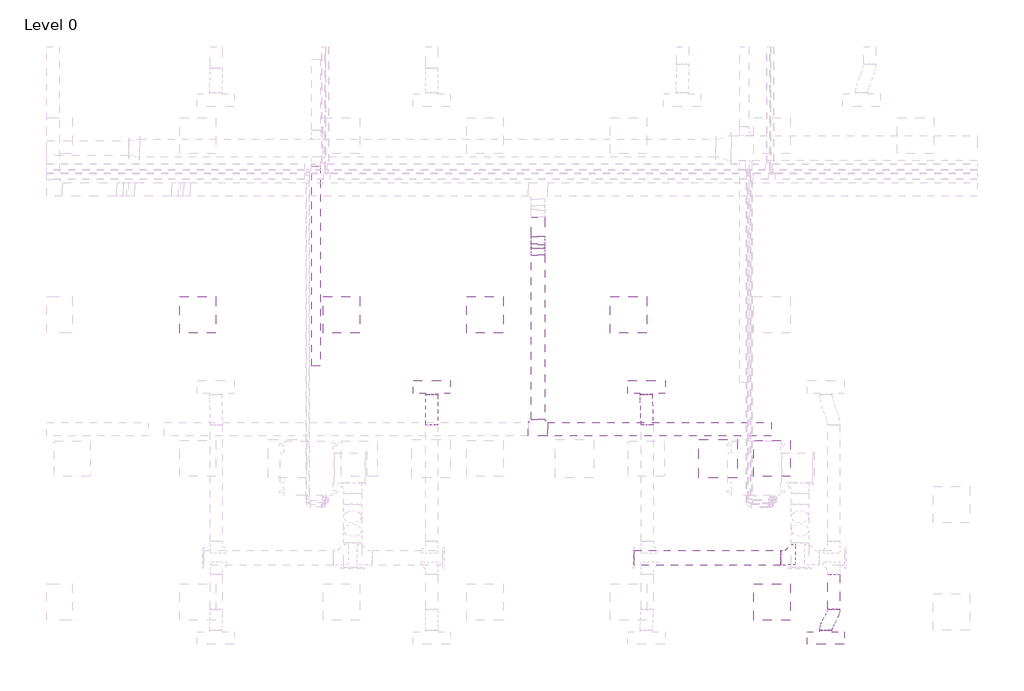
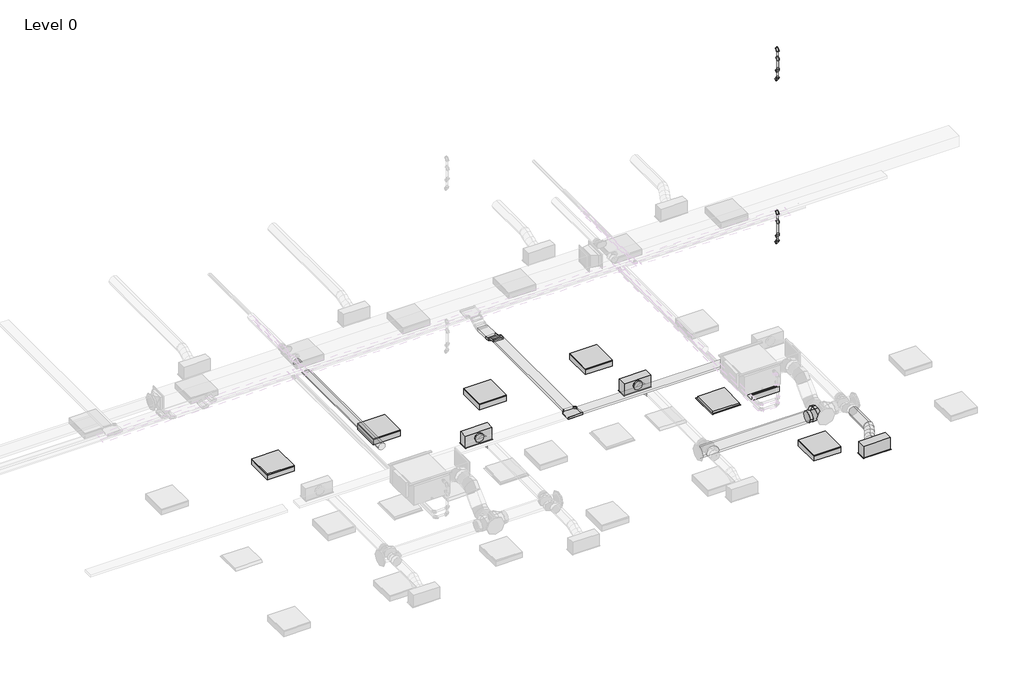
# One storey, part 10 of 34: 8 pipe fittings, 6 duct segments, 6 light fixtures, 4 air terminals, 4 cable carrier segments, 4 pipe segments, 3 cable carrier fittings, 1 duct fitting.
"""IFC4 building model written with IfcOpenShell, lengths in millimetres."""

from ifc_helpers import new_model, si_unit, point, frame, frame_2d, origin, place, context, project, spatial, polyline, circle_curve, ellipse_curve, trimmed, segment, composite_curve, outline, extrude, transform, mapped, element, save
from ifc_brep_helpers import plane_surface, cylinder_surface, advanced_brep
from components import return_grille_rectangular_hosted_standard_7b12617c, supply_diffuser_with_plenum_linear_slot_hosted_2b730595, cable_tray_horizontal_tee_standard_d76b5e15, cable_tray_vertical_inside_bend_standard_9a66f55b, cable_tray_vertical_outside_bend_standard_4df2047e, dw144_round_shoe_branch_slip_joint1_standard_2_67b64720, troffer_light_2x2_parabolic_2_x2_2_lamp_120v_6a063ff3, elbow_threaded_gmi_standard_b4aa7741

model = new_model("IFC4")

# Units and contexts
model_context = context("Model", 3, world=origin())
ifc_project = project(units=[si_unit("LENGTHUNIT", "METRE", prefix="MILLI")], contexts=[model_context])

# Site, building, storey
site = spatial("IfcSite", under=ifc_project)
building = spatial("IfcBuilding", under=site)
storey = spatial("IfcBuildingStorey", under=building, Name="Level 0", Elevation=0.0)

# Air terminals
placement = place(None, origin())
return_grille_rectangular_hosted_standard_shape = return_grille_rectangular_hosted_standard_7b12617c(model_context)
element("IfcAirTerminal", 1, ObjectType="Return Grille - Rectangular - Hosted : Standard", at=placement, inside=storey, context=model_context, shape_type="MappedRepresentation", body=[
    mapped(return_grille_rectangular_hosted_standard_shape, transform((24762.2000027, 3963.2000004, 2800.0), x_axis=(1.0, 0.0, 0.0), y_axis=(0.0, -1.0, 0.0), z_axis=(0.0, 0.0, -1.0))),
])
supply_diffuser_with_plenum_linear_slot_hosted_shape = supply_diffuser_with_plenum_linear_slot_hosted_2b730595(model_context)
element("IfcAirTerminal", 2, ObjectType="Supply Diffuser with Plenum - Linear Slot - Hosted : 24\" x 8\"-200 In Inlet  4-Slot", at=placement, inside=storey, context=model_context, shape_type="MappedRepresentation", body=[
    mapped(supply_diffuser_with_plenum_linear_slot_hosted_shape, transform((26562.2000027, 963.2000004, 2800.0), x_axis=(1.0, 0.0, 0.0), y_axis=(0.0, -1.0, 0.0), z_axis=(0.0, 0.0, -1.0))),
])
element("IfcAirTerminal", 3, ObjectType="Supply Diffuser with Plenum - Linear Slot - Hosted : 24\" x 8\"-200 In Inlet  4-Slot", at=placement, inside=storey, context=model_context, shape_type="MappedRepresentation", body=[
    mapped(supply_diffuser_with_plenum_linear_slot_hosted_shape, transform((19973.9000022, 5163.2000004, 2800.0), x_axis=(-1.0, 0.0, 0.0), y_axis=(0.0, 1.0, 0.0), z_axis=(0.0, 0.0, -1.0))),
])
element("IfcAirTerminal", 4, ObjectType="Supply Diffuser with Plenum - Linear Slot - Hosted : 24\" x 8\"-200 In Inlet  4-Slot", at=placement, inside=storey, context=model_context, shape_type="MappedRepresentation", body=[
    mapped(supply_diffuser_with_plenum_linear_slot_hosted_shape, transform((23562.2000027, 5163.2000004, 2800.0), x_axis=(-1.0, 0.0, 0.0), y_axis=(0.0, 1.0, 0.0), z_axis=(0.0, 0.0, -1.0))),
])

# Cable carrier fittings
cable_tray_horizontal_tee_standard_shape = cable_tray_horizontal_tee_standard_d76b5e15(model_context)
element("IfcCableCarrierFitting", 5, ObjectType="Cable Tray Horizontal Tee : Standard", at=placement, inside=storey, context=model_context, shape_type="MappedRepresentation", body=[
    mapped(cable_tray_horizontal_tee_standard_shape, transform((21747.5028601, 4459.9103775, 3275.0), x_axis=(-1.0, 0.0, 0.0), y_axis=(0.0, -1.0, 0.0), z_axis=(0.0, 0.0, 1.0))),
])
cable_tray_vertical_inside_bend_standard_shape = cable_tray_vertical_inside_bend_standard_9a66f55b(model_context)
element("IfcCableCarrierFitting", 6, ObjectType="Cable Tray Vertical Inside Bend : Standard", at=placement, inside=storey, context=model_context, shape_type="MappedRepresentation", body=[
    mapped(cable_tray_vertical_inside_bend_standard_shape, transform((21747.5028601, 7610.4627278, 3175.0), x_axis=(0.0, 0.8660254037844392, -0.49999999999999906), y_axis=(0.0, 0.49999999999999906, 0.8660254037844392), z_axis=(1.0, 0.0, 0.0))),
])
cable_tray_vertical_outside_bend_standard_shape = cable_tray_vertical_outside_bend_standard_4df2047e(model_context)
element("IfcCableCarrierFitting", 7, ObjectType="Cable Tray Vertical Outside Bend : Standard", at=placement, inside=storey, context=model_context, shape_type="MappedRepresentation", body=[
    mapped(cable_tray_vertical_outside_bend_standard_shape, transform((21747.5028601, 7437.257647, 3275.0), x_axis=(0.0, -0.8660254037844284, 0.5000000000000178), y_axis=(0.0, -0.5000000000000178, -0.8660254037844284), z_axis=(1.0, 0.0, 0.0))),
])

# Cable carrier segments
element("IfcCableCarrierSegment", 8, ObjectType="Perforated Cable Tray", at=placement, inside=storey, context=model_context, shape_type="SweptSolid", body=[
    extrude(outline(polyline([(21910.0028601, 4347.4103775), (21910.0028601, 4572.4103775), (25647.5028601, 4572.4103775), (25647.5028601, 4347.4103775), (21910.0028601, 4347.4103775)])), frame((0.0, 0.0, 3250.0), z_axis=(0.0, 0.0, 1.0), x_axis=(1.0, 0.0, 0.0)), (0.0, 0.0, 1.0), 50.0),
])
element("IfcCableCarrierSegment", 9, ObjectType="Perforated Cable Tray", at=placement, inside=storey, context=model_context, shape_type="SweptSolid", body=[
    extrude(outline(polyline([(21635.0028601, 7370.2703489), (21860.0028601, 7370.2703489), (21860.0028601, 4622.4103775), (21635.0028601, 4622.4103775), (21635.0028601, 7370.2703489)])), frame((0.0, 0.0, 3250.0), z_axis=(0.0, 0.0, 1.0), x_axis=(1.0, 0.0, 0.0)), (0.0, 0.0, 1.0), 50.0),
])
element("IfcCableCarrierSegment", 10, ObjectType="Perforated Cable Tray", at=placement, inside=storey, context=model_context, shape_type="SweptSolid", body=[
    extrude(outline(polyline([(21635.0028601, 8002.7307005), (21860.0028601, 8002.7307005), (21860.0028601, 7677.4500259), (21635.0028601, 7677.4500259), (21635.0028601, 8002.7307005)])), frame((0.0, 0.0, 3150.0), z_axis=(0.0, 0.0, 1.0), x_axis=(1.0, 0.0, 0.0)), (0.0, 0.0, 1.0), 50.0),
])
element("IfcCableCarrierSegment", 11, ObjectType="Perforated Cable Tray", at=placement, inside=storey, context=model_context, shape_type="SweptSolid", body=[
    extrude(outline(polyline([(0.0, -225.0), (0.0, 0.0), (66.0254038, 0.0), (66.0254038, -225.0), (0.0, -225.0)])), frame((21860.0028601, 7539.9500259, 3186.843014), z_axis=(0.0, 0.5000000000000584, 0.866025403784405), x_axis=(0.0, -0.866025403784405, 0.5000000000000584)), (0.0, 0.0, 1.0), 50.0),
])

# Duct fitting
dw144_round_shoe_branch_slip_joint1_standard_2_shape = dw144_round_shoe_branch_slip_joint1_standard_2_67b64720(model_context)
element("IfcDuctFitting", 12, ObjectType="DW144 Round Shoe Branch - Slip Joint1 : Standard 2", at=placement, inside=storey, context=model_context, shape_type="MappedRepresentation", body=[
    mapped(dw144_round_shoe_branch_slip_joint1_standard_2_shape, transform((25981.4561025, 2306.5018192, 3072.2088531), x_axis=(-1.0, 0.0, 0.0), y_axis=(0.0, -1.0, 0.0), z_axis=(0.0, 0.0, 1.0))),
])

# Duct segments
element("IfcDuctSegment", 13, ObjectType="DW144 Segmented Bend / Shoe Branch", at=placement, inside=storey, context=model_context, shape_type="SweptSolid", body=[
    extrude(outline(composite_curve([segment(trimmed(circle_curve(frame_2d((2306.5018192, 3072.2088531)), 125.0), [point((2431.5018192, 3072.2088531))], [point((2306.5018192, 2947.2088531))], False, "CARTESIAN"), True, "CONTINUOUS"), segment(trimmed(circle_curve(frame_2d((2306.5018192, 3072.2088531)), 125.0), [point((2306.5018192, 2947.2088531))], [point((2181.5018192, 3072.2088531))], False, "CARTESIAN"), True, "CONTINUOUS"), segment(trimmed(circle_curve(frame_2d((2306.5018192, 3072.2088531)), 125.0), [point((2181.5018192, 3072.2088531))], [point((2306.5018192, 3197.2088531))], False, "CARTESIAN"), True, "CONTINUOUS"), segment(trimmed(circle_curve(frame_2d((2306.5018192, 3072.2088531)), 125.0), [point((2306.5018192, 3197.2088531))], [point((2431.5018192, 3072.2088531))], False, "CARTESIAN"), True, "CONTINUOUS")], self_intersect=False)), frame((23361.4561025, 0.0, 0.0), z_axis=(1.0, 0.0, 0.0), x_axis=(0.0, 1.0, 0.0)), (0.0, 0.0, 1.0), 2445.0),
])
element("IfcDuctSegment", 14, ObjectType="DW144 Segmented Bend / Shoe Branch", at=placement, inside=storey, context=model_context, shape_type="SweptSolid", body=[
    extrude(outline(composite_curve([segment(trimmed(circle_curve(frame_2d((3072.2088531, 26693.9000022)), 100.0), [point((3072.2088531, 26593.9000022))], [point((2972.2088531, 26693.9000022))], False, "CARTESIAN"), True, "CONTINUOUS"), segment(trimmed(circle_curve(frame_2d((3072.2088531, 26693.9000022)), 100.0), [point((2972.2088531, 26693.9000022))], [point((3072.2088531, 26793.9000022))], False, "CARTESIAN"), True, "CONTINUOUS"), segment(trimmed(circle_curve(frame_2d((3072.2088531, 26693.9000022)), 100.0), [point((3072.2088531, 26793.9000022))], [point((3172.2088531, 26693.9000022))], False, "CARTESIAN"), True, "CONTINUOUS"), segment(trimmed(circle_curve(frame_2d((3072.2088531, 26693.9000022)), 100.0), [point((3172.2088531, 26693.9000022))], [point((3072.2088531, 26593.9000022))], False, "CARTESIAN"), True, "CONTINUOUS")], self_intersect=False)), frame((0.0, 1441.5018192, 0.0), z_axis=(0.0, 1.0, 0.0), x_axis=(0.0, 0.0, 1.0)), (0.0, 0.0, 1.0), 590.0),
])
element("IfcDuctSegment", 15, ObjectType="DW144 Segmented Bend / Shoe Branch", at=placement, inside=storey, context=model_context, shape_type="SweptSolid", body=[
    extrude(outline(composite_curve([segment(trimmed(circle_curve(frame_2d((3135.0, 18039.0080407)), 75.0), [point((3135.0, 17964.0080407))], [point((3060.0, 18039.0080407))], False, "CARTESIAN"), True, "CONTINUOUS"), segment(trimmed(circle_curve(frame_2d((3135.0, 18039.0080407)), 75.0), [point((3060.0, 18039.0080407))], [point((3135.0, 18114.0080407))], False, "CARTESIAN"), True, "CONTINUOUS"), segment(trimmed(circle_curve(frame_2d((3135.0, 18039.0080407)), 75.0), [point((3135.0, 18114.0080407))], [point((3210.0, 18039.0080407))], False, "CARTESIAN"), True, "CONTINUOUS"), segment(trimmed(circle_curve(frame_2d((3135.0, 18039.0080407)), 75.0), [point((3210.0, 18039.0080407))], [point((3135.0, 17964.0080407))], False, "CARTESIAN"), True, "CONTINUOUS")], self_intersect=False)), frame((0.0, 5510.2561435, 0.0), z_axis=(0.0, 1.0, 0.0), x_axis=(0.0, 0.0, 1.0)), (0.0, 0.0, 1.0), 3349.1601689),
])
element("IfcDuctSegment", 16, ObjectType="Flex - Round", at=placement, inside=storey, context=model_context, shape_type="AdvancedBrep", body=[
    advanced_brep(
    [(19873.9000022, 4531.5018192, 3072.2088531), (19973.9000022, 4531.5018192, 2972.2088531), (20073.9000022, 4531.5018192, 3072.2088531), (19973.9000022, 4531.5018192, 3172.2088531), (19873.9000022, 4545.7969038, 3072.2088531), (19973.9000022, 4537.7159486, 2972.2088531), (20073.9000022, 4545.7969038, 3072.2088531), (19973.9000022, 4553.877859, 3172.2088531), (19873.9000022, 5036.2000004, 2954.4), (19973.9000022, 5036.2000004, 3054.4), (20073.9000022, 5036.2000004, 2954.4), (19973.9000022, 5036.2000004, 2854.4), (19873.9000022, 4658.9483053, 3053.8012198), (19973.9000022, 4635.3622903, 2956.3236053), (20073.9000022, 4658.9483053, 3053.8012198), (19973.9000022, 4682.5343203, 3151.2788343), (19873.9000022, 4783.8509098, 3013.3044266), (19973.9000022, 4753.0088194, 2918.1794274), (20073.9000022, 4783.8509098, 3013.3044266), (19973.9000022, 4814.6930003, 3108.4294257), (19873.9000022, 4908.7535143, 2972.8076333), (19973.9000022, 4885.1674994, 2875.3300188), (20073.9000022, 4908.7535143, 2972.8076333), (19973.9000022, 4932.3395293, 3070.2852478), (19873.9000022, 5021.9049158, 2954.4), (19973.9000022, 5013.8239606, 2854.4), (20073.9000022, 5021.9049158, 2954.4), (19973.9000022, 5029.985871, 3054.4)],
    [
        (0, 1, circle_curve(frame((19973.9000022, 4531.5018192, 3072.2088531), z_axis=(0.0, -1.0, 0.0), x_axis=(-1.0, 0.0, 0.0)), 100.0)),
        (1, 2, circle_curve(frame((19973.9000022, 4531.5018192, 3072.2088531), z_axis=(0.0, -1.0, 0.0), x_axis=(-1.0, 0.0, 0.0)), 100.0)),
        (2, 3, circle_curve(frame((19973.9000022, 4531.5018192, 3072.2088531), z_axis=(0.0, -1.0, 0.0), x_axis=(-1.0, 0.0, 0.0)), 100.0)),
        (3, 0, circle_curve(frame((19973.9000022, 4531.5018192, 3072.2088531), z_axis=(0.0, -1.0, 0.0), x_axis=(-1.0, 0.0, 0.0)), 100.0)),
        (0, 4),
        (4, 5, ellipse_curve(frame((19973.9000022, 4545.7969038, 3072.2088531), z_axis=(0.0, -0.9967508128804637, 0.08054698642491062), x_axis=(0.0, -0.08054698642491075, -0.9967508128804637)), 100.3259779, 100.0)),
        (5, 1),
        (5, 6, ellipse_curve(frame((19973.9000022, 4545.7969038, 3072.2088531), z_axis=(0.0, -0.9967508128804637, 0.08054698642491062), x_axis=(0.0, -0.08054698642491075, -0.9967508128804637)), 100.3259779, 100.0)),
        (6, 2),
        (6, 7, ellipse_curve(frame((19973.9000022, 4545.7969038, 3072.2088531), z_axis=(0.0, -0.9967508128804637, 0.08054698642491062), x_axis=(0.0, -0.08054698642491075, -0.9967508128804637)), 100.3259779, 100.0)),
        (7, 3),
        (7, 4, ellipse_curve(frame((19973.9000022, 4545.7969038, 3072.2088531), z_axis=(0.0, -0.9967508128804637, 0.08054698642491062), x_axis=(0.0, -0.08054698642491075, -0.9967508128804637)), 100.3259779, 100.0)),
        (8, 9, circle_curve(frame((19973.9000022, 5036.2000004, 2954.4), z_axis=(0.0, 1.0, 0.0), x_axis=(-1.0, 0.0, 0.0)), 100.0)),
        (9, 10, circle_curve(frame((19973.9000022, 5036.2000004, 2954.4), z_axis=(0.0, 1.0, 0.0), x_axis=(-1.0, 0.0, 0.0)), 100.0)),
        (10, 11, circle_curve(frame((19973.9000022, 5036.2000004, 2954.4), z_axis=(0.0, 1.0, 0.0), x_axis=(-1.0, 0.0, 0.0)), 100.0)),
        (11, 8, circle_curve(frame((19973.9000022, 5036.2000004, 2954.4), z_axis=(0.0, 1.0, 0.0), x_axis=(-1.0, 0.0, 0.0)), 100.0)),
        (4, 12),
        (12, 13, ellipse_curve(frame((19973.9000022, 4658.9483053, 3053.8012198), z_axis=(0.0, -0.9719525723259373, 0.23517694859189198), x_axis=(0.0, -0.2351769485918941, -0.9719525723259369)), 100.2905052, 100.0)),
        (13, 5),
        (13, 14, ellipse_curve(frame((19973.9000022, 4658.9483053, 3053.8012198), z_axis=(0.0, -0.9719525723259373, 0.23517694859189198), x_axis=(0.0, -0.2351769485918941, -0.9719525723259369)), 100.2905052, 100.0)),
        (14, 6),
        (14, 15, ellipse_curve(frame((19973.9000022, 4658.9483053, 3053.8012198), z_axis=(0.0, -0.9719525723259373, 0.23517694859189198), x_axis=(0.0, -0.2351769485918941, -0.9719525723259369)), 100.2905052, 100.0)),
        (15, 7),
        (15, 12, ellipse_curve(frame((19973.9000022, 4658.9483053, 3053.8012198), z_axis=(0.0, -0.9719525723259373, 0.23517694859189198), x_axis=(0.0, -0.2351769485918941, -0.9719525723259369)), 100.2905052, 100.0)),
        (12, 16),
        (16, 17, circle_curve(frame((19973.9000022, 4783.8509098, 3013.3044266), z_axis=(0.0, -0.9512499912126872, 0.30842090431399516), x_axis=(-1.0, 0.0, 0.0)), 100.0)),
        (17, 13),
        (17, 18, circle_curve(frame((19973.9000022, 4783.8509098, 3013.3044266), z_axis=(0.0, -0.9512499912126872, 0.30842090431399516), x_axis=(-1.0, 0.0, 0.0)), 100.0)),
        (18, 14),
        (18, 19, circle_curve(frame((19973.9000022, 4783.8509098, 3013.3044266), z_axis=(0.0, -0.9512499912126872, 0.30842090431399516), x_axis=(-1.0, 0.0, 0.0)), 100.0)),
        (19, 15),
        (19, 16, circle_curve(frame((19973.9000022, 4783.8509098, 3013.3044266), z_axis=(0.0, -0.9512499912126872, 0.30842090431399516), x_axis=(-1.0, 0.0, 0.0)), 100.0)),
        (16, 20),
        (20, 21, ellipse_curve(frame((19973.9000022, 4908.7535143, 2972.8076333), z_axis=(0.0, -0.9719525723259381, 0.2351769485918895), x_axis=(0.0, 0.23517694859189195, 0.9719525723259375)), 100.2905052, 100.0)),
        (21, 17),
        (21, 22, ellipse_curve(frame((19973.9000022, 4908.7535143, 2972.8076333), z_axis=(0.0, -0.9719525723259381, 0.2351769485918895), x_axis=(0.0, 0.23517694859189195, 0.9719525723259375)), 100.2905052, 100.0)),
        (22, 18),
        (22, 23, ellipse_curve(frame((19973.9000022, 4908.7535143, 2972.8076333), z_axis=(0.0, -0.9719525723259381, 0.2351769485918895), x_axis=(0.0, 0.23517694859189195, 0.9719525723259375)), 100.2905052, 100.0)),
        (23, 19),
        (23, 20, ellipse_curve(frame((19973.9000022, 4908.7535143, 2972.8076333), z_axis=(0.0, -0.9719525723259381, 0.2351769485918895), x_axis=(0.0, 0.23517694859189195, 0.9719525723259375)), 100.2905052, 100.0)),
        (20, 24),
        (24, 25, ellipse_curve(frame((19973.9000022, 5021.9049158, 2954.4), z_axis=(0.0, -0.9967508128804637, 0.0805469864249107), x_axis=(0.0, 0.08054698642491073, 0.9967508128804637)), 100.3259779, 100.0)),
        (25, 21),
        (25, 26, ellipse_curve(frame((19973.9000022, 5021.9049158, 2954.4), z_axis=(0.0, -0.9967508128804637, 0.0805469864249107), x_axis=(0.0, 0.08054698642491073, 0.9967508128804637)), 100.3259779, 100.0)),
        (26, 22),
        (26, 27, ellipse_curve(frame((19973.9000022, 5021.9049158, 2954.4), z_axis=(0.0, -0.9967508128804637, 0.0805469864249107), x_axis=(0.0, 0.08054698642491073, 0.9967508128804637)), 100.3259779, 100.0)),
        (27, 23),
        (27, 24, ellipse_curve(frame((19973.9000022, 5021.9049158, 2954.4), z_axis=(0.0, -0.9967508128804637, 0.0805469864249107), x_axis=(0.0, 0.08054698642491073, 0.9967508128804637)), 100.3259779, 100.0)),
        (24, 8),
        (11, 25),
        (10, 26),
        (9, 27),
    ],
    [
        plane_surface(frame((19873.9000022, 4531.5018192, 3072.2088531), z_axis=(0.0, -1.0, 0.0), x_axis=(0.0, 0.0, 1.0))),
        cylinder_surface(frame((19973.9000022, 4531.5018192, 3072.2088531), z_axis=(0.0, -1.0, 0.0), x_axis=(-1.0, 0.0, 0.0)), 100.0),
        plane_surface(frame((19873.9000022, 5036.2000004, 2954.4), z_axis=(0.0, 1.0, 0.0), x_axis=(0.0, 0.0, 1.0))),
        cylinder_surface(frame((19973.9000022, 4545.7969038, 3072.2088531), z_axis=(0.0, -0.9870243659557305, 0.1605705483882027), x_axis=(-1.0, 0.0, 0.0)), 100.0),
        cylinder_surface(frame((19973.9000022, 4658.9483053, 3053.8012198), z_axis=(0.0, -0.9512499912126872, 0.30842090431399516), x_axis=(-1.0, 0.0, 0.0)), 100.0),
        cylinder_surface(frame((19973.9000022, 4783.8509098, 3013.3044266), z_axis=(0.0, -0.9512499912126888, 0.3084209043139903), x_axis=(-1.0, 0.0, 0.0)), 100.0),
        cylinder_surface(frame((19973.9000022, 4908.7535143, 2972.8076333), z_axis=(0.0, -0.9870243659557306, 0.16057054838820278), x_axis=(-1.0, 0.0, 0.0)), 100.0),
        cylinder_surface(frame((19973.9000022, 5021.9049158, 2954.4), z_axis=(0.0, -1.0, 0.0), x_axis=(-1.0, 0.0, 0.0)), 100.0),
    ],
    [
        (0, [[1, 2, 3, 4]]),
        (1, [[-1, 5, 6, 7]]),
        (1, [[-2, -7, 8, 9]]),
        (1, [[-3, -9, 10, 11]]),
        (1, [[-4, -11, 12, -5]]),
        (2, [[13, 14, 15, 16]]),
        (3, [[-6, 17, 18, 19]]),
        (3, [[-8, -19, 20, 21]]),
        (3, [[-10, -21, 22, 23]]),
        (3, [[-12, -23, 24, -17]]),
        (4, [[-18, 25, 26, 27]]),
        (4, [[-20, -27, 28, 29]]),
        (4, [[-22, -29, 30, 31]]),
        (4, [[-24, -31, 32, -25]]),
        (5, [[-26, 33, 34, 35]]),
        (5, [[-28, -35, 36, 37]]),
        (5, [[-30, -37, 38, 39]]),
        (5, [[-32, -39, 40, -33]]),
        (6, [[-34, 41, 42, 43]]),
        (6, [[-36, -43, 44, 45]]),
        (6, [[-38, -45, 46, 47]]),
        (6, [[-40, -47, 48, -41]]),
        (7, [[-42, 49, -16, 50]]),
        (7, [[-44, -50, -15, 51]]),
        (7, [[-46, -51, -14, 52]]),
        (7, [[-48, -52, -13, -49]]),
    ],
),
])
element("IfcDuctSegment", 17, ObjectType="Flex - Round", at=placement, inside=storey, context=model_context, shape_type="AdvancedBrep", body=[
    advanced_brep(
    [(23473.9000022, 4531.5018192, 3072.2088531), (23573.9000022, 4531.5018192, 2972.2088531), (23673.9000022, 4531.5018192, 3072.2088531), (23573.9000022, 4531.5018192, 3172.2088531), (23473.9000022, 4544.9917141, 3072.2088531), (23573.9000022, 4537.7147353, 2972.2088531), (23673.9000022, 4546.5964935, 3072.2088531), (23573.9000022, 4553.8734723, 3172.2088531), (23462.2000027, 5036.2000004, 2954.4), (23562.2000027, 5036.2000004, 3054.4), (23662.2000027, 5036.2000004, 2954.4), (23562.2000027, 5036.2000004, 2854.4), (23472.0967445, 4656.6189403, 3054.0516107), (23572.3222682, 4635.3813467, 2956.322439), (23672.0470101, 4661.3024295, 3053.5508289), (23571.8214864, 4682.5400231, 3151.2800006), (23468.0980601, 4780.789038, 3013.7883253), (23568.5339011, 4753.0205151, 2918.1768669), (23668.0019448, 4786.9127816, 3012.8205279), (23567.5661038, 4814.6813046, 3108.4319862), (23464.0529948, 4906.3993902, 2973.0580242), (23564.2785185, 4885.1617966, 2875.3288525), (23664.0032604, 4911.0828794, 2972.5572424), (23563.7777367, 4932.320473, 3070.2864141), (23462.2000027, 5021.1053262, 2954.4), (23562.2000027, 5013.8283474, 2854.4), (23662.2000027, 5022.7101055, 2954.4), (23562.2000027, 5029.9870843, 3054.4)],
    [
        (0, 1, circle_curve(frame((23573.9000022, 4531.5018192, 3072.2088531), z_axis=(0.0, -1.0, 0.0), x_axis=(-1.0, 0.0, 0.0)), 100.0)),
        (1, 2, circle_curve(frame((23573.9000022, 4531.5018192, 3072.2088531), z_axis=(0.0, -1.0, 0.0), x_axis=(-1.0, 0.0, 0.0)), 100.0)),
        (2, 3, circle_curve(frame((23573.9000022, 4531.5018192, 3072.2088531), z_axis=(0.0, -1.0, 0.0), x_axis=(-1.0, 0.0, 0.0)), 100.0)),
        (3, 0, circle_curve(frame((23573.9000022, 4531.5018192, 3072.2088531), z_axis=(0.0, -1.0, 0.0), x_axis=(-1.0, 0.0, 0.0)), 100.0)),
        (0, 4),
        (4, 5, ellipse_curve(frame((23573.9000022, 4545.7941038, 3072.2088531), z_axis=(0.007997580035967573, -0.9967202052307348, 0.08052869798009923), x_axis=(-0.09850310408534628, -0.08092485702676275, -0.9918408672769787)), 100.3290587, 100.0)),
        (5, 1),
        (5, 6, ellipse_curve(frame((23573.9000022, 4545.7941038, 3072.2088531), z_axis=(0.007997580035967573, -0.9967202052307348, 0.08052869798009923), x_axis=(-0.09850310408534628, -0.08092485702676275, -0.9918408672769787)), 100.3290587, 100.0)),
        (6, 2),
        (6, 7, ellipse_curve(frame((23573.9000022, 4545.7941038, 3072.2088531), z_axis=(0.007997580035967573, -0.9967202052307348, 0.08052869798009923), x_axis=(-0.09850310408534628, -0.08092485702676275, -0.9918408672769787)), 100.3290587, 100.0)),
        (7, 3),
        (7, 4, ellipse_curve(frame((23573.9000022, 4545.7941038, 3072.2088531), z_axis=(0.007997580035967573, -0.9967202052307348, 0.08052869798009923), x_axis=(-0.09850310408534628, -0.08092485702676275, -0.9918408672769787)), 100.3290587, 100.0)),
        (8, 9, circle_curve(frame((23562.2000027, 5036.2000004, 2954.4), z_axis=(0.0, 1.0, 0.0), x_axis=(-1.0, 0.0, 0.0)), 100.0)),
        (9, 10, circle_curve(frame((23562.2000027, 5036.2000004, 2954.4), z_axis=(0.0, 1.0, 0.0), x_axis=(-1.0, 0.0, 0.0)), 100.0)),
        (10, 11, circle_curve(frame((23562.2000027, 5036.2000004, 2954.4), z_axis=(0.0, 1.0, 0.0), x_axis=(-1.0, 0.0, 0.0)), 100.0)),
        (11, 8, circle_curve(frame((23562.2000027, 5036.2000004, 2954.4), z_axis=(0.0, 1.0, 0.0), x_axis=(-1.0, 0.0, 0.0)), 100.0)),
        (4, 12),
        (12, 13, ellipse_curve(frame((23572.0718773, 4658.9606849, 3053.8012198), z_axis=(0.02334897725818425, -0.9716897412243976, 0.23510396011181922), x_axis=(-0.0960294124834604, -0.23626054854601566, -0.9669329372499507)), 100.2932412, 100.0)),
        (13, 5),
        (13, 14, ellipse_curve(frame((23572.0718773, 4658.9606849, 3053.8012198), z_axis=(0.02334897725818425, -0.9716897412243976, 0.23510396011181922), x_axis=(-0.0960294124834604, -0.23626054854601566, -0.9669329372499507)), 100.2932412, 100.0)),
        (14, 6),
        (14, 15, ellipse_curve(frame((23572.0718773, 4658.9606849, 3053.8012198), z_axis=(0.02334897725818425, -0.9716897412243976, 0.23510396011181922), x_axis=(-0.0960294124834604, -0.23626054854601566, -0.9669329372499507)), 100.2932412, 100.0)),
        (15, 7),
        (15, 12, ellipse_curve(frame((23572.0718773, 4658.9606849, 3053.8012198), z_axis=(0.02334897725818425, -0.9716897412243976, 0.23510396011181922), x_axis=(-0.0960294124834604, -0.23626054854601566, -0.9669329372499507)), 100.2932412, 100.0)),
        (12, 16),
        (16, 17, circle_curve(frame((23568.0500024, 4783.8509098, 3013.3044266), z_axis=(0.03061871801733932, -0.9507950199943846, 0.3083039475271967), x_axis=(-0.9995194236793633, -0.03061871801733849, 0.004838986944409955)), 100.0)),
        (17, 13),
        (17, 18, circle_curve(frame((23568.0500024, 4783.8509098, 3013.3044266), z_axis=(0.03061871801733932, -0.9507950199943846, 0.3083039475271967), x_axis=(-0.9995194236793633, -0.03061871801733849, 0.004838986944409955)), 100.0)),
        (18, 14),
        (18, 19, circle_curve(frame((23568.0500024, 4783.8509098, 3013.3044266), z_axis=(0.03061871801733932, -0.9507950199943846, 0.3083039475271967), x_axis=(-0.9995194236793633, -0.03061871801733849, 0.004838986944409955)), 100.0)),
        (19, 15),
        (19, 16, circle_curve(frame((23568.0500024, 4783.8509098, 3013.3044266), z_axis=(0.03061871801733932, -0.9507950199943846, 0.3083039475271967), x_axis=(-0.9995194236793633, -0.03061871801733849, 0.004838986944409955)), 100.0)),
        (16, 20),
        (20, 21, ellipse_curve(frame((23564.0281276, 4908.7411348, 2972.8076333), z_axis=(0.02334897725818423, -0.9716897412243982, 0.23510396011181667), x_axis=(0.09602941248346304, 0.23626054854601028, 0.9669329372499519)), 100.2932412, 100.0)),
        (21, 17),
        (21, 22, ellipse_curve(frame((23564.0281276, 4908.7411348, 2972.8076333), z_axis=(0.02334897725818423, -0.9716897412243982, 0.23510396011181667), x_axis=(0.09602941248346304, 0.23626054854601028, 0.9669329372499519)), 100.2932412, 100.0)),
        (22, 18),
        (22, 23, ellipse_curve(frame((23564.0281276, 4908.7411348, 2972.8076333), z_axis=(0.02334897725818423, -0.9716897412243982, 0.23510396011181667), x_axis=(0.09602941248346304, 0.23626054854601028, 0.9669329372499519)), 100.2932412, 100.0)),
        (23, 19),
        (23, 20, ellipse_curve(frame((23564.0281276, 4908.7411348, 2972.8076333), z_axis=(0.02334897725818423, -0.9716897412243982, 0.23510396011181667), x_axis=(0.09602941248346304, 0.23626054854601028, 0.9669329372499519)), 100.2932412, 100.0)),
        (20, 24),
        (24, 25, ellipse_curve(frame((23562.2000027, 5021.9077159, 2954.4), z_axis=(0.007997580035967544, -0.9967202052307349, 0.08052869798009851), x_axis=(0.09850310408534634, 0.08092485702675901, 0.9918408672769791)), 100.3290587, 100.0)),
        (25, 21),
        (25, 26, ellipse_curve(frame((23562.2000027, 5021.9077159, 2954.4), z_axis=(0.007997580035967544, -0.9967202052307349, 0.08052869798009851), x_axis=(0.09850310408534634, 0.08092485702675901, 0.9918408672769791)), 100.3290587, 100.0)),
        (26, 22),
        (26, 27, ellipse_curve(frame((23562.2000027, 5021.9077159, 2954.4), z_axis=(0.007997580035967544, -0.9967202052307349, 0.08052869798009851), x_axis=(0.09850310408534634, 0.08092485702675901, 0.9918408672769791)), 100.3290587, 100.0)),
        (27, 23),
        (27, 24, ellipse_curve(frame((23562.2000027, 5021.9077159, 2954.4), z_axis=(0.007997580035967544, -0.9967202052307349, 0.08052869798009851), x_axis=(0.09850310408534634, 0.08092485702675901, 0.9918408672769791)), 100.3290587, 100.0)),
        (24, 8),
        (11, 25),
        (10, 26),
        (9, 27),
    ],
    [
        plane_surface(frame((23473.9000022, 4531.5018192, 3072.2088531), z_axis=(0.0, -1.0, 0.0), x_axis=(0.0, 0.0, 1.0))),
        cylinder_surface(frame((23573.9000022, 4531.5018192, 3072.2088531), z_axis=(0.0, -1.0, 0.0), x_axis=(-1.0, 0.0, 0.0)), 100.0),
        plane_surface(frame((23462.2000027, 5036.2000004, 2954.4), z_axis=(0.0, 1.0, 0.0), x_axis=(0.0, 0.0, 1.0))),
        cylinder_surface(frame((23573.9000022, 4545.7941038, 3072.2088531), z_axis=(0.015942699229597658, -0.9869023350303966, 0.16052916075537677), x_axis=(-0.9998720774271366, -0.015942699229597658, 0.001288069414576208)), 100.0),
        cylinder_surface(frame((23572.0718773, 4658.9606849, 3053.8012198), z_axis=(0.03061871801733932, -0.9507950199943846, 0.3083039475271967), x_axis=(-0.9995194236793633, -0.03061871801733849, 0.004838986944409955)), 100.0),
        cylinder_surface(frame((23568.0500024, 4783.8509098, 3013.3044266), z_axis=(0.03061871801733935, -0.9507950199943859, 0.3083039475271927), x_axis=(-0.9995194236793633, -0.030618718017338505, 0.0048389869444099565)), 100.0),
        cylinder_surface(frame((23564.0281276, 4908.7411348, 2972.8076333), z_axis=(0.015942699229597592, -0.9869023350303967, 0.16052916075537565), x_axis=(-0.9998720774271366, -0.01594269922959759, 0.0012880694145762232)), 100.0),
        cylinder_surface(frame((23562.2000027, 5021.9077159, 2954.4), z_axis=(0.0, -1.0, 0.0), x_axis=(-1.0, 0.0, 0.0)), 100.0),
    ],
    [
        (0, [[1, 2, 3, 4]]),
        (1, [[-1, 5, 6, 7]]),
        (1, [[-2, -7, 8, 9]]),
        (1, [[-3, -9, 10, 11]]),
        (1, [[-4, -11, 12, -5]]),
        (2, [[13, 14, 15, 16]]),
        (3, [[-6, 17, 18, 19]]),
        (3, [[-8, -19, 20, 21]]),
        (3, [[-10, -21, 22, 23]]),
        (3, [[-12, -23, 24, -17]]),
        (4, [[-18, 25, 26, 27]]),
        (4, [[-20, -27, 28, 29]]),
        (4, [[-22, -29, 30, 31]]),
        (4, [[-24, -31, 32, -25]]),
        (5, [[-26, 33, 34, 35]]),
        (5, [[-28, -35, 36, 37]]),
        (5, [[-30, -37, 38, 39]]),
        (5, [[-32, -39, 40, -33]]),
        (6, [[-34, 41, 42, 43]]),
        (6, [[-36, -43, 44, 45]]),
        (6, [[-38, -45, 46, 47]]),
        (6, [[-40, -47, 48, -41]]),
        (7, [[-42, 49, -16, 50]]),
        (7, [[-44, -50, -15, 51]]),
        (7, [[-46, -51, -14, 52]]),
        (7, [[-48, -52, -13, -49]]),
    ],
),
])
element("IfcDuctSegment", 18, ObjectType="Flex - Round", at=placement, inside=storey, context=model_context, shape_type="AdvancedBrep", body=[
    advanced_brep(
    [(26793.9000022, 1441.5018192, 3072.2088531), (26693.9000022, 1441.5018192, 2972.2088531), (26593.9000022, 1441.5018192, 3072.2088531), (26693.9000022, 1441.5018192, 3172.2088531), (26793.9000022, 1411.2087487, 3072.2088531), (26693.9000022, 1433.8138868, 2972.2088531), (26593.9000022, 1435.0724044, 3072.2088531), (26693.9000022, 1412.4672663, 3172.2088531), (26662.2000027, 1090.2000004, 2954.4), (26562.2000027, 1090.2000004, 3054.4), (26462.2000027, 1090.2000004, 2954.4), (26562.2000027, 1090.2000004, 2854.4), (26775.2186566, 1334.9313952, 3055.4979351), (26684.6619996, 1396.0944201, 2963.9452351), (26585.1877479, 1399.4996081, 3064.4155297), (26675.7444049, 1338.3365831, 3155.9682297), (26737.2689433, 1255.6343376, 3021.5509934), (26656.7307458, 1337.7312325, 2938.9600491), (26557.8142615, 1342.301892, 3039.9292803), (26638.3524589, 1260.204997, 3122.5202245), (26698.2857434, 1189.3999277, 2986.6795729), (26617.7475459, 1271.4968226, 2904.0886286), (26518.8310616, 1276.067482, 3005.0578597), (26599.3692591, 1193.9705871, 3087.648804), (26670.912257, 1132.2022116, 2962.1933234), (26580.3555999, 1193.3652365, 2870.6406234), (26480.8813483, 1196.7704245, 2971.1109181), (26571.4380053, 1135.6073995, 3062.6636181), (26662.2000027, 1096.6294152, 2954.4), (26562.2000027, 1119.2345533, 2854.4), (26462.2000027, 1120.4930709, 2954.4), (26562.2000027, 1097.8879328, 3054.4)],
    [
        (0, 1, circle_curve(frame((26693.9000022, 1441.5018192, 3072.2088531), z_axis=(0.0, 1.0, 0.0), x_axis=(1.0, 0.0, 0.0)), 100.0)),
        (1, 2, circle_curve(frame((26693.9000022, 1441.5018192, 3072.2088531), z_axis=(0.0, 1.0, 0.0), x_axis=(1.0, 0.0, 0.0)), 100.0)),
        (2, 3, circle_curve(frame((26693.9000022, 1441.5018192, 3072.2088531), z_axis=(0.0, 1.0, 0.0), x_axis=(1.0, 0.0, 0.0)), 100.0)),
        (3, 0, circle_curve(frame((26693.9000022, 1441.5018192, 3072.2088531), z_axis=(0.0, 1.0, 0.0), x_axis=(1.0, 0.0, 0.0)), 100.0)),
        (0, 4),
        (4, 5, ellipse_curve(frame((26693.9000022, 1423.1405766, 3072.2088531), z_axis=(0.117818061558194, 0.9874267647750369, 0.1053911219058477), x_axis=(-0.7359489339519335, 0.15807714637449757, -0.6583242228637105)), 101.2733334, 100.0)),
        (5, 1),
        (5, 6, ellipse_curve(frame((26693.9000022, 1423.1405766, 3072.2088531), z_axis=(0.117818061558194, 0.9874267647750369, 0.1053911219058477), x_axis=(-0.7359489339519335, 0.15807714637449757, -0.6583242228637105)), 101.2733334, 100.0)),
        (6, 2),
        (6, 7, ellipse_curve(frame((26693.9000022, 1423.1405766, 3072.2088531), z_axis=(0.117818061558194, 0.9874267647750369, 0.1053911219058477), x_axis=(-0.7359489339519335, 0.15807714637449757, -0.6583242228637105)), 101.2733334, 100.0)),
        (7, 3),
        (7, 4, ellipse_curve(frame((26693.9000022, 1423.1405766, 3072.2088531), z_axis=(0.117818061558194, 0.9874267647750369, 0.1053911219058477), x_axis=(-0.7359489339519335, 0.15807714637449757, -0.6583242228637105)), 101.2733334, 100.0)),
        (8, 9, circle_curve(frame((26562.2000027, 1090.2000004, 2954.4), z_axis=(0.0, -1.0, 0.0), x_axis=(1.0, 0.0, 0.0)), 100.0)),
        (9, 10, circle_curve(frame((26562.2000027, 1090.2000004, 2954.4), z_axis=(0.0, -1.0, 0.0), x_axis=(1.0, 0.0, 0.0)), 100.0)),
        (10, 11, circle_curve(frame((26562.2000027, 1090.2000004, 2954.4), z_axis=(0.0, -1.0, 0.0), x_axis=(1.0, 0.0, 0.0)), 100.0)),
        (11, 8, circle_curve(frame((26562.2000027, 1090.2000004, 2954.4), z_axis=(0.0, -1.0, 0.0), x_axis=(1.0, 0.0, 0.0)), 100.0)),
        (4, 12),
        (12, 13, ellipse_curve(frame((26680.2032023, 1367.2155016, 3059.9567324), z_axis=(0.3202548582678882, 0.9029775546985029, 0.28647576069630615), x_axis=(-0.6730072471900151, 0.42968771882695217, -0.6020213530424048)), 100.8075463, 100.0)),
        (13, 5),
        (13, 14, ellipse_curve(frame((26680.2032023, 1367.2155016, 3059.9567324), z_axis=(0.3202548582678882, 0.9029775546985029, 0.28647576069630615), x_axis=(-0.6730072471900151, 0.42968771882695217, -0.6020213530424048)), 100.8075463, 100.0)),
        (14, 6),
        (14, 15, ellipse_curve(frame((26680.2032023, 1367.2155016, 3059.9567324), z_axis=(0.3202548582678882, 0.9029775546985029, 0.28647576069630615), x_axis=(-0.6730072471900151, 0.42968771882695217, -0.6020213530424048)), 100.8075463, 100.0)),
        (15, 7),
        (15, 12, ellipse_curve(frame((26680.2032023, 1367.2155016, 3059.9567324), z_axis=(0.3202548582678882, 0.9029775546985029, 0.28647576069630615), x_axis=(-0.6730072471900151, 0.42968771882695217, -0.6020213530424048)), 100.8075463, 100.0)),
        (12, 16),
        (16, 17, ellipse_curve(frame((26647.5416024, 1298.9681148, 3030.7401368), z_axis=(0.43282179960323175, 0.814103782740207, 0.38716962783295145), x_axis=(-0.6067678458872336, 0.5807194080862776, -0.5427685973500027)), 100.1192112, 100.0)),
        (17, 13),
        (17, 18, ellipse_curve(frame((26647.5416024, 1298.9681148, 3030.7401368), z_axis=(0.43282179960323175, 0.814103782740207, 0.38716962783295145), x_axis=(-0.6067678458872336, 0.5807194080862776, -0.5427685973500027)), 100.1192112, 100.0)),
        (18, 14),
        (18, 19, ellipse_curve(frame((26647.5416024, 1298.9681148, 3030.7401368), z_axis=(0.43282179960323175, 0.814103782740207, 0.38716962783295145), x_axis=(-0.6067678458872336, 0.5807194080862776, -0.5427685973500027)), 100.1192112, 100.0)),
        (19, 15),
        (19, 16, ellipse_curve(frame((26647.5416024, 1298.9681148, 3030.7401368), z_axis=(0.43282179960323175, 0.814103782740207, 0.38716962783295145), x_axis=(-0.6067678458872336, 0.5807194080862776, -0.5427685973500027)), 100.1192112, 100.0)),
        (16, 20),
        (20, 21, ellipse_curve(frame((26608.5584025, 1232.7337049, 2995.8687163), z_axis=(0.43282179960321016, 0.8141037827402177, 0.38716962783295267), x_axis=(0.6067678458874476, -0.5807194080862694, 0.5427685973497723)), 100.1192112, 100.0)),
        (21, 17),
        (21, 22, ellipse_curve(frame((26608.5584025, 1232.7337049, 2995.8687163), z_axis=(0.43282179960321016, 0.8141037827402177, 0.38716962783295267), x_axis=(0.6067678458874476, -0.5807194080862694, 0.5427685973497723)), 100.1192112, 100.0)),
        (22, 18),
        (22, 23, ellipse_curve(frame((26608.5584025, 1232.7337049, 2995.8687163), z_axis=(0.43282179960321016, 0.8141037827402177, 0.38716962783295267), x_axis=(0.6067678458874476, -0.5807194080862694, 0.5427685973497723)), 100.1192112, 100.0)),
        (23, 19),
        (23, 20, ellipse_curve(frame((26608.5584025, 1232.7337049, 2995.8687163), z_axis=(0.43282179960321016, 0.8141037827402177, 0.38716962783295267), x_axis=(0.6067678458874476, -0.5807194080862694, 0.5427685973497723)), 100.1192112, 100.0)),
        (20, 24),
        (24, 25, ellipse_curve(frame((26575.8968026, 1164.486318, 2966.6521207), z_axis=(0.32025485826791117, 0.9029775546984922, 0.28647576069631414), x_axis=(0.673007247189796, -0.42968771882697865, 0.6020213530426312)), 100.8075463, 100.0)),
        (25, 21),
        (25, 26, ellipse_curve(frame((26575.8968026, 1164.486318, 2966.6521207), z_axis=(0.32025485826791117, 0.9029775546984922, 0.28647576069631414), x_axis=(0.673007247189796, -0.42968771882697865, 0.6020213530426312)), 100.8075463, 100.0)),
        (26, 22),
        (26, 27, ellipse_curve(frame((26575.8968026, 1164.486318, 2966.6521207), z_axis=(0.32025485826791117, 0.9029775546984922, 0.28647576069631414), x_axis=(0.673007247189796, -0.42968771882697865, 0.6020213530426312)), 100.8075463, 100.0)),
        (27, 23),
        (27, 24, ellipse_curve(frame((26575.8968026, 1164.486318, 2966.6521207), z_axis=(0.32025485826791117, 0.9029775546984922, 0.28647576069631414), x_axis=(0.673007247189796, -0.42968771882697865, 0.6020213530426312)), 100.8075463, 100.0)),
        (24, 28),
        (28, 29, ellipse_curve(frame((26562.2000027, 1108.5612431, 2954.4), z_axis=(0.11781806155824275, 0.9874267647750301, 0.1053911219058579), x_axis=(0.735948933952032, -0.15807714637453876, 0.6583242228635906)), 101.2733334, 100.0)),
        (29, 25),
        (29, 30, ellipse_curve(frame((26562.2000027, 1108.5612431, 2954.4), z_axis=(0.11781806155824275, 0.9874267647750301, 0.1053911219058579), x_axis=(0.735948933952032, -0.15807714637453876, 0.6583242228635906)), 101.2733334, 100.0)),
        (30, 26),
        (30, 31, ellipse_curve(frame((26562.2000027, 1108.5612431, 2954.4), z_axis=(0.11781806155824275, 0.9874267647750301, 0.1053911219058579), x_axis=(0.735948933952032, -0.15807714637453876, 0.6583242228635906)), 101.2733334, 100.0)),
        (31, 27),
        (31, 28, ellipse_curve(frame((26562.2000027, 1108.5612431, 2954.4), z_axis=(0.11781806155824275, 0.9874267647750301, 0.1053911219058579), x_axis=(0.735948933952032, -0.15807714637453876, 0.6583242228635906)), 101.2733334, 100.0)),
        (28, 8),
        (11, 29),
        (10, 30),
        (9, 31),
    ],
    [
        plane_surface(frame((26593.9000022, 1441.5018192, 3072.2088531), z_axis=(0.0, 1.0, 0.0), x_axis=(0.0, 0.0, -1.0))),
        cylinder_surface(frame((26693.9000022, 1441.5018192, 3072.2088531), z_axis=(0.0, 1.0, 0.0), x_axis=(1.0, 0.0, 0.0)), 100.0),
        plane_surface(frame((26462.2000027, 1090.2000004, 2954.4), z_axis=(0.0, -1.0, 0.0), x_axis=(0.0, 0.0, -1.0))),
        cylinder_surface(frame((26693.9000022, 1423.1405766, 3072.2088531), z_axis=(0.2326734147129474, 0.9500232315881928, 0.20813202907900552), x_axis=(0.9722378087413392, -0.23267341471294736, -0.02483395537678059)), 100.0),
        cylinder_surface(frame((26680.2032023, 1367.2155016, 3059.9567324), z_axis=(0.4027053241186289, 0.8414647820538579, 0.36022970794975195), x_axis=(0.9119333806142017, -0.40270532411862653, -0.07877773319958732)), 100.0),
        cylinder_surface(frame((26647.5416024, 1298.9681148, 3030.7401368), z_axis=(0.4619075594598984, 0.7848040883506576, 0.41318754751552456), x_axis=(0.8804582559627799, -0.46190755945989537, -0.1069329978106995)), 100.0),
        cylinder_surface(frame((26608.5584025, 1232.7337049, 2995.8687163), z_axis=(0.4027053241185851, 0.8414647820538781, 0.3602297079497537), x_axis=(0.9119333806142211, -0.4027053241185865, -0.0787777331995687)), 100.0),
        cylinder_surface(frame((26575.8968026, 1164.486318, 2966.6521207), z_axis=(0.23267341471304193, 0.9500232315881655, 0.2081320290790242), x_axis=(0.9722378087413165, -0.23267341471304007, -0.024833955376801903)), 100.0),
        cylinder_surface(frame((26562.2000027, 1108.5612431, 2954.4), z_axis=(0.0, 1.0, 0.0), x_axis=(1.0, 0.0, 0.0)), 100.0),
    ],
    [
        (0, [[1, 2, 3, 4]]),
        (1, [[-1, 5, 6, 7]]),
        (1, [[-2, -7, 8, 9]]),
        (1, [[-3, -9, 10, 11]]),
        (1, [[-4, -11, 12, -5]]),
        (2, [[13, 14, 15, 16]]),
        (3, [[-6, 17, 18, 19]]),
        (3, [[-8, -19, 20, 21]]),
        (3, [[-10, -21, 22, 23]]),
        (3, [[-12, -23, 24, -17]]),
        (4, [[-18, 25, 26, 27]]),
        (4, [[-20, -27, 28, 29]]),
        (4, [[-22, -29, 30, 31]]),
        (4, [[-24, -31, 32, -25]]),
        (5, [[-26, 33, 34, 35]]),
        (5, [[-28, -35, 36, 37]]),
        (5, [[-30, -37, 38, 39]]),
        (5, [[-32, -39, 40, -33]]),
        (6, [[-34, 41, 42, 43]]),
        (6, [[-36, -43, 44, 45]]),
        (6, [[-38, -45, 46, 47]]),
        (6, [[-40, -47, 48, -41]]),
        (7, [[-42, 49, 50, 51]]),
        (7, [[-44, -51, 52, 53]]),
        (7, [[-46, -53, 54, 55]]),
        (7, [[-48, -55, 56, -49]]),
        (8, [[-50, 57, -16, 58]]),
        (8, [[-52, -58, -15, 59]]),
        (8, [[-54, -59, -14, 60]]),
        (8, [[-56, -60, -13, -57]]),
    ],
),
])

# Light fixtures
troffer_light_2x2_parabolic_2_x2_2_lamp_120v_shape = troffer_light_2x2_parabolic_2_x2_2_lamp_120v_6a063ff3(model_context)
element("IfcLightFixture", 19, ObjectType="Troffer Light - 2x2 Parabolic : 2'x2'(2 Lamp) - 120V", at=placement, inside=storey, context=model_context, shape_type="MappedRepresentation", body=[
    mapped(troffer_light_2x2_parabolic_2_x2_2_lamp_120v_shape, transform((25662.2000027, 1263.2000004, 2800.0), x_axis=(1.0, 0.0, 0.0), y_axis=(0.0, -1.0, 0.0), z_axis=(0.0, 0.0, -1.0))),
])
element("IfcLightFixture", 20, ObjectType="Troffer Light - 2x2 Parabolic : 2'x2'(2 Lamp) - 120V", at=placement, inside=storey, context=model_context, shape_type="MappedRepresentation", body=[
    mapped(troffer_light_2x2_parabolic_2_x2_2_lamp_120v_shape, transform((25662.2000027, 3663.2000004, 2800.0), x_axis=(1.0, 0.0, 0.0), y_axis=(0.0, -1.0, 0.0), z_axis=(0.0, 0.0, -1.0))),
])
element("IfcLightFixture", 21, ObjectType="Troffer Light - 2x2 Parabolic : 2'x2'(2 Lamp) - 120V", at=placement, inside=storey, context=model_context, shape_type="MappedRepresentation", body=[
    mapped(troffer_light_2x2_parabolic_2_x2_2_lamp_120v_shape, transform((16062.2000027, 6063.2000004, 2800.0), x_axis=(1.0, 0.0, 0.0), y_axis=(0.0, -1.0, 0.0), z_axis=(0.0, 0.0, -1.0))),
])
element("IfcLightFixture", 22, ObjectType="Troffer Light - 2x2 Parabolic : 2'x2'(2 Lamp) - 120V", at=placement, inside=storey, context=model_context, shape_type="MappedRepresentation", body=[
    mapped(troffer_light_2x2_parabolic_2_x2_2_lamp_120v_shape, transform((18462.2000027, 6063.2000004, 2800.0), x_axis=(1.0, 0.0, 0.0), y_axis=(0.0, -1.0, 0.0), z_axis=(0.0, 0.0, -1.0))),
])
element("IfcLightFixture", 23, ObjectType="Troffer Light - 2x2 Parabolic : 2'x2'(2 Lamp) - 120V", at=placement, inside=storey, context=model_context, shape_type="MappedRepresentation", body=[
    mapped(troffer_light_2x2_parabolic_2_x2_2_lamp_120v_shape, transform((20862.2000027, 6063.2000004, 2800.0), x_axis=(1.0, 0.0, 0.0), y_axis=(0.0, -1.0, 0.0), z_axis=(0.0, 0.0, -1.0))),
])
element("IfcLightFixture", 24, ObjectType="Troffer Light - 2x2 Parabolic : 2'x2'(2 Lamp) - 120V", at=placement, inside=storey, context=model_context, shape_type="MappedRepresentation", body=[
    mapped(troffer_light_2x2_parabolic_2_x2_2_lamp_120v_shape, transform((23262.2000027, 6063.2000004, 2800.0), x_axis=(1.0, 0.0, 0.0), y_axis=(0.0, -1.0, 0.0), z_axis=(0.0, 0.0, -1.0))),
])

# Pipe fittings
elbow_threaded_gmi_standard_shape = elbow_threaded_gmi_standard_b4aa7741(model_context)
element("IfcPipeFitting", 25, ObjectType="Elbow - Threaded - GMI : Standard", at=placement, inside=storey, context=model_context, shape_type="MappedRepresentation", body=[
    mapped(elbow_threaded_gmi_standard_shape, transform((25648.8561025, 3177.232951, 10693.9343179), x_axis=(0.0, 0.0, -1.0), y_axis=(-1.0, 0.0, 0.0), z_axis=(0.0, 1.0, 0.0))),
])
element("IfcPipeFitting", 26, ObjectType="Elbow - Threaded - GMI : Standard", at=placement, inside=storey, context=model_context, shape_type="MappedRepresentation", body=[
    mapped(elbow_threaded_gmi_standard_shape, transform((25699.6561025, 3246.7427522, 10834.6193977), x_axis=(0.0, 0.0, -1.0), y_axis=(-1.0, 0.0, 0.0), z_axis=(0.0, 1.0, 0.0))),
])
element("IfcPipeFitting", 27, ObjectType="Elbow - Threaded - GMI : Standard", at=placement, inside=storey, context=model_context, shape_type="MappedRepresentation", body=[
    mapped(elbow_threaded_gmi_standard_shape, transform((25648.8561025, 3177.232951, 11403.3911538), x_axis=(0.0, 0.0, 1.0), y_axis=(0.0, 1.0, 0.0), z_axis=(-1.0, 0.0, 0.0))),
])
element("IfcPipeFitting", 28, ObjectType="Elbow - Threaded - GMI : Standard", at=placement, inside=storey, context=model_context, shape_type="MappedRepresentation", body=[
    mapped(elbow_threaded_gmi_standard_shape, transform((25699.6561025, 3246.7427522, 11123.9911538), x_axis=(0.0, 0.0, 1.0), y_axis=(0.0, 1.0, 0.0), z_axis=(-1.0, 0.0, 0.0))),
])
element("IfcPipeFitting", 29, ObjectType="Elbow - Threaded - GMI : Standard", at=placement, inside=storey, context=model_context, shape_type="MappedRepresentation", body=[
    mapped(elbow_threaded_gmi_standard_shape, transform((25648.8561025, 3177.232951, 6793.9343179), x_axis=(0.0, 0.0, -1.0), y_axis=(-1.0, 0.0, 0.0), z_axis=(0.0, 1.0, 0.0))),
])
element("IfcPipeFitting", 30, ObjectType="Elbow - Threaded - GMI : Standard", at=placement, inside=storey, context=model_context, shape_type="MappedRepresentation", body=[
    mapped(elbow_threaded_gmi_standard_shape, transform((25699.6561025, 3246.7427522, 6880.0), x_axis=(0.0, 0.0, -1.0), y_axis=(-1.0, 0.0, 0.0), z_axis=(0.0, 1.0, 0.0))),
])
element("IfcPipeFitting", 31, ObjectType="Elbow - Threaded - GMI : Standard", at=placement, inside=storey, context=model_context, shape_type="MappedRepresentation", body=[
    mapped(elbow_threaded_gmi_standard_shape, transform((25648.8561025, 3177.232951, 7503.3911538), x_axis=(0.0, 0.0, 1.0), y_axis=(0.0, 1.0, 0.0), z_axis=(-1.0, 0.0, 0.0))),
])
element("IfcPipeFitting", 32, ObjectType="Elbow - Threaded - GMI : Standard", at=placement, inside=storey, context=model_context, shape_type="MappedRepresentation", body=[
    mapped(elbow_threaded_gmi_standard_shape, transform((25699.6561025, 3246.7427522, 7223.9911538), x_axis=(0.0, 0.0, 1.0), y_axis=(0.0, 1.0, 0.0), z_axis=(-1.0, 0.0, 0.0))),
])

# Pipe segments
element("IfcPipeSegment", 33, ObjectType="Carbon Steel - Threaded", at=placement, inside=storey, context=model_context, shape_type="SweptSolid", body=[
    extrude(outline(composite_curve([segment(trimmed(circle_curve(frame_2d((25648.8561025, 3177.232951)), 21.45), [point((25670.3061025, 3177.232951))], [point((25648.8561025, 3155.782951))], False, "CARTESIAN"), True, "CONTINUOUS"), segment(trimmed(circle_curve(frame_2d((25648.8561025, 3177.232951)), 21.45), [point((25648.8561025, 3155.782951))], [point((25627.4061025, 3177.232951))], False, "CARTESIAN"), True, "CONTINUOUS"), segment(trimmed(circle_curve(frame_2d((25648.8561025, 3177.232951)), 21.45), [point((25627.4061025, 3177.232951))], [point((25648.8561025, 3198.682951))], False, "CARTESIAN"), True, "CONTINUOUS"), segment(trimmed(circle_curve(frame_2d((25648.8561025, 3177.232951)), 21.45), [point((25648.8561025, 3198.682951))], [point((25670.3061025, 3177.232951))], False, "CARTESIAN"), True, "CONTINUOUS")], self_intersect=False)), frame((0.0, 0.0, 10738.9343179), z_axis=(0.0, 0.0, 1.0), x_axis=(1.0, 0.0, 0.0)), (0.0, 0.0, 1.0), 619.4568359),
])
element("IfcPipeSegment", 34, ObjectType="Carbon Steel - Threaded", at=placement, inside=storey, context=model_context, shape_type="SweptSolid", body=[
    extrude(outline(composite_curve([segment(trimmed(circle_curve(frame_2d((25699.6561025, 3246.7427522)), 21.45), [point((25721.1061025, 3246.7427522))], [point((25699.6561025, 3225.2927522))], False, "CARTESIAN"), True, "CONTINUOUS"), segment(trimmed(circle_curve(frame_2d((25699.6561025, 3246.7427522)), 21.45), [point((25699.6561025, 3225.2927522))], [point((25678.2061025, 3246.7427522))], False, "CARTESIAN"), True, "CONTINUOUS"), segment(trimmed(circle_curve(frame_2d((25699.6561025, 3246.7427522)), 21.45), [point((25678.2061025, 3246.7427522))], [point((25699.6561025, 3268.1927522))], False, "CARTESIAN"), True, "CONTINUOUS"), segment(trimmed(circle_curve(frame_2d((25699.6561025, 3246.7427522)), 21.45), [point((25699.6561025, 3268.1927522))], [point((25721.1061025, 3246.7427522))], False, "CARTESIAN"), True, "CONTINUOUS")], self_intersect=False)), frame((0.0, 0.0, 10879.6193977), z_axis=(0.0, 0.0, 1.0), x_axis=(1.0, 0.0, 0.0)), (0.0, 0.0, 1.0), 199.3717561),
])
element("IfcPipeSegment", 35, ObjectType="Carbon Steel - Threaded", at=placement, inside=storey, context=model_context, shape_type="SweptSolid", body=[
    extrude(outline(composite_curve([segment(trimmed(circle_curve(frame_2d((25648.8561025, 3177.232951)), 21.45), [point((25670.3061025, 3177.232951))], [point((25648.8561025, 3155.782951))], False, "CARTESIAN"), True, "CONTINUOUS"), segment(trimmed(circle_curve(frame_2d((25648.8561025, 3177.232951)), 21.45), [point((25648.8561025, 3155.782951))], [point((25627.4061025, 3177.232951))], False, "CARTESIAN"), True, "CONTINUOUS"), segment(trimmed(circle_curve(frame_2d((25648.8561025, 3177.232951)), 21.45), [point((25627.4061025, 3177.232951))], [point((25648.8561025, 3198.682951))], False, "CARTESIAN"), True, "CONTINUOUS"), segment(trimmed(circle_curve(frame_2d((25648.8561025, 3177.232951)), 21.45), [point((25648.8561025, 3198.682951))], [point((25670.3061025, 3177.232951))], False, "CARTESIAN"), True, "CONTINUOUS")], self_intersect=False)), frame((0.0, 0.0, 6838.9343179), z_axis=(0.0, 0.0, 1.0), x_axis=(1.0, 0.0, 0.0)), (0.0, 0.0, 1.0), 619.4568359),
])
element("IfcPipeSegment", 36, ObjectType="Carbon Steel - Threaded", at=placement, inside=storey, context=model_context, shape_type="SweptSolid", body=[
    extrude(outline(composite_curve([segment(trimmed(circle_curve(frame_2d((25699.6561025, 3246.7427522)), 21.45), [point((25721.1061025, 3246.7427522))], [point((25699.6561025, 3225.2927522))], False, "CARTESIAN"), True, "CONTINUOUS"), segment(trimmed(circle_curve(frame_2d((25699.6561025, 3246.7427522)), 21.45), [point((25699.6561025, 3225.2927522))], [point((25678.2061025, 3246.7427522))], False, "CARTESIAN"), True, "CONTINUOUS"), segment(trimmed(circle_curve(frame_2d((25699.6561025, 3246.7427522)), 21.45), [point((25678.2061025, 3246.7427522))], [point((25699.6561025, 3268.1927522))], False, "CARTESIAN"), True, "CONTINUOUS"), segment(trimmed(circle_curve(frame_2d((25699.6561025, 3246.7427522)), 21.45), [point((25699.6561025, 3268.1927522))], [point((25721.1061025, 3246.7427522))], False, "CARTESIAN"), True, "CONTINUOUS")], self_intersect=False)), frame((0.0, 0.0, 6925.0), z_axis=(0.0, 0.0, 1.0), x_axis=(1.0, 0.0, 0.0)), (0.0, 0.0, 1.0), 253.9911538),
])

save(model, "model.ifc")
